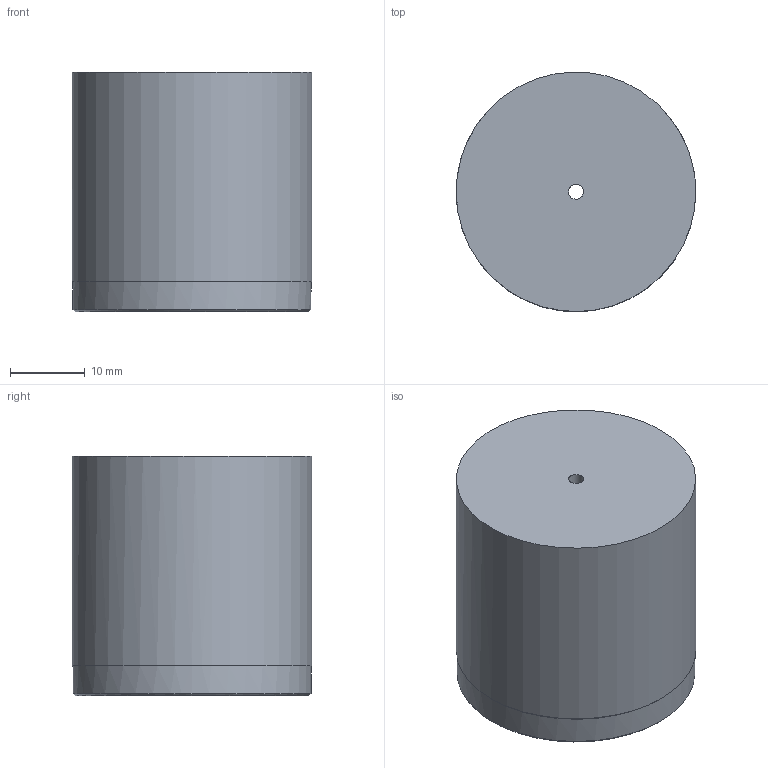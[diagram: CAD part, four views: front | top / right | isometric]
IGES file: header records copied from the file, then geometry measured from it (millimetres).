
Start section: C
Global section: file name: MSPBSC320632.igs; native system: By Siemens PLM Incorporated; preprocessor: XPlus GENERIC/IGES 18.0.17; author: Author; organization: Title; date: 20240726.162841; units: millimetre
Bounding box: 32 x 32 x 32 mm (x, y, z)
Volume: 16758.2 mm3; surface area: 6528.5 mm2
Topology: 1 solids, 1 shells, 277 faces, 720 edges, 480 vertices
Faces by surface type: bspline 277
